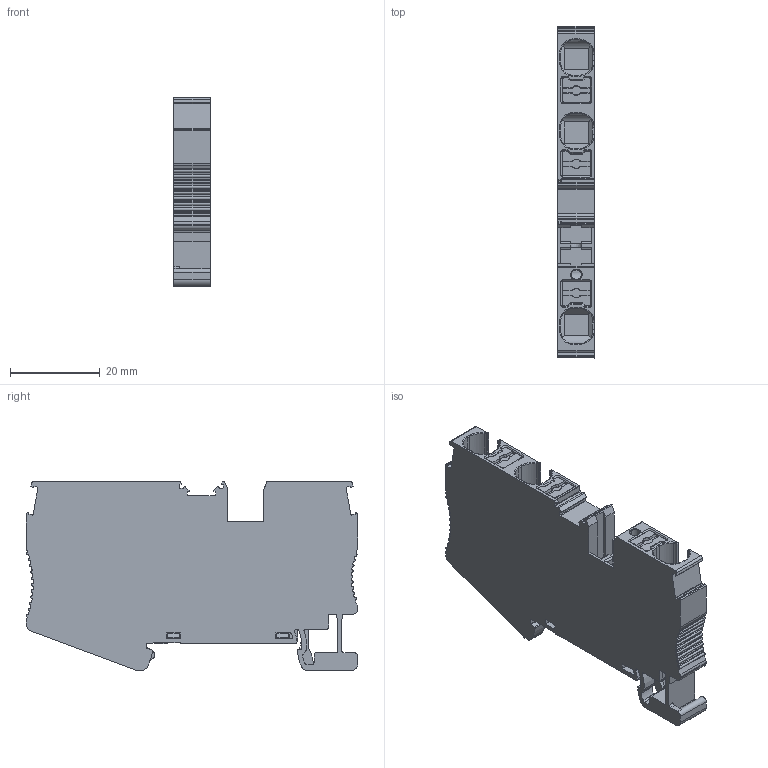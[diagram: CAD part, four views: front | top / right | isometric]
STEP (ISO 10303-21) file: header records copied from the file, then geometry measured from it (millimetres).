
FILE_DESCRIPTION((''),'2;1');
FILE_NAME('_X2_585180F6_X0__2_1_4','2024-04-03T11:05:39',('Administrator'),(''),'CREO PARAMETRIC BY PTC INC, 2018050','CREO PARAMETRIC BY PTC INC, 2018050','');
FILE_SCHEMA(('CONFIG_CONTROL_DESIGN'));
Length unit declared in the file: millimetre
Products named in the file (1): _X2_585180F6_X0__2_1_4
Bounding box: 8.15 x 74.12 x 42.2 mm (x, y, z)
Volume: 17799 mm3; surface area: 11483.8 mm2
Topology: 1 solids, 5 shells, 997 faces, 2819 edges, 1841 vertices
Faces by surface type: plane 531, cylinder 393, cone 32, torus 20, bspline 18, extrusion 3
Entity records: 33322 total; most frequent: CARTESIAN_POINT 7266, ORIENTED_EDGE 5638, DIRECTION 5261, EDGE_CURVE 2819, VECTOR 1885, LINE 1882, VERTEX_POINT 1841, AXIS2_PLACEMENT_3D 1688
